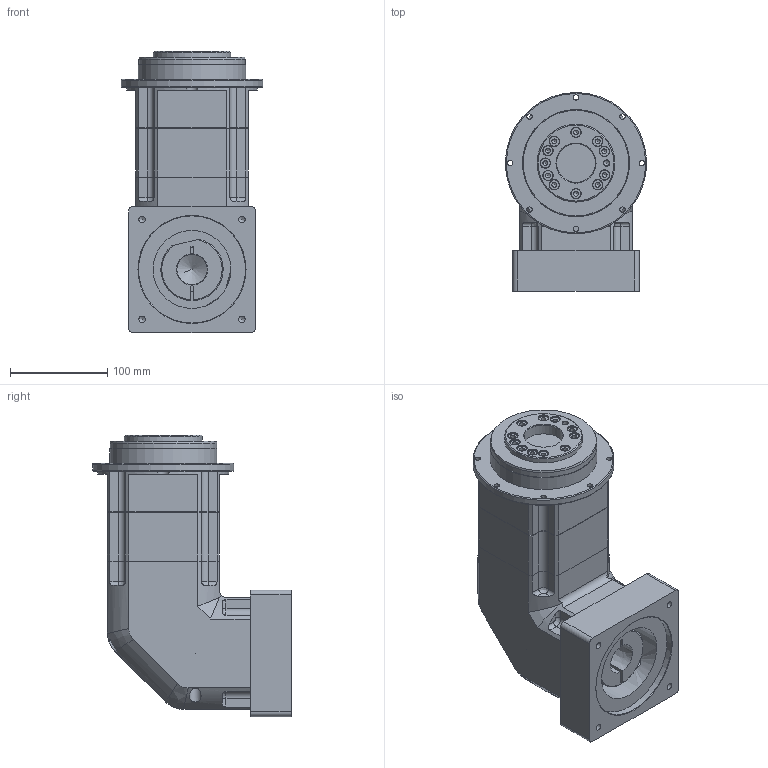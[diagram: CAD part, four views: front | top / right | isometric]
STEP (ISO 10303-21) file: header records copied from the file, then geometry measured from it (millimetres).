
FILE_DESCRIPTION((''),'2;1');
FILE_NAME('C:\Documents and Settings\nagyu\바탕 화면\유성감속기 3D\SPLF115\SPLF115S025~100FA.stp','2009-10-27T09:45:56',('nagyu'),(''),'Autodesk Inventor 2010','Autodesk Inventor 2010','');
FILE_SCHEMA(('AUTOMOTIVE_DESIGN { 1 0 10303 214 1 1 1 1 }'));
Length unit declared in the file: millimetre
Products named in the file (5): SPLF115 2단; SPIF115; 115각 CARRIER CASE; 115각 INPUT ADAPTER FLANGE; SPL115 GEARCASE
Assembly tree (4 placements, depth 2):
  SPLF115 2단
    SPIF115
    115각 CARRIER CASE
    115각 INPUT ADAPTER FLANGE
    SPL115 GEARCASE
Bounding box: 145 x 203.8 x 289 mm (x, y, z)
Volume: 3656969.2 mm3; surface area: 310200.2 mm2
Topology: 5 solids, 5 shells, 327 faces, 830 edges, 536 vertices
Faces by surface type: plane 110, cylinder 104, bspline 79, cone 32, torus 2
Full cylindrical faces by diameter (mm): 5.5 x8, 6.6 x4, 11 x4, 45 x1, 72 x1, 80 x1, 90 x2, 92 x1, 100 x1, 109.4 x1, 110 x1, 145 x1
Entity records: 10789 total; most frequent: CARTESIAN_POINT 3489, DIRECTION 1433, ORIENTED_EDGE 1366, EDGE_CURVE 683, AXIS2_PLACEMENT_3D 572, VERTEX_POINT 487, EDGE_LOOP 480, FACE_OUTER_BOUND 327
